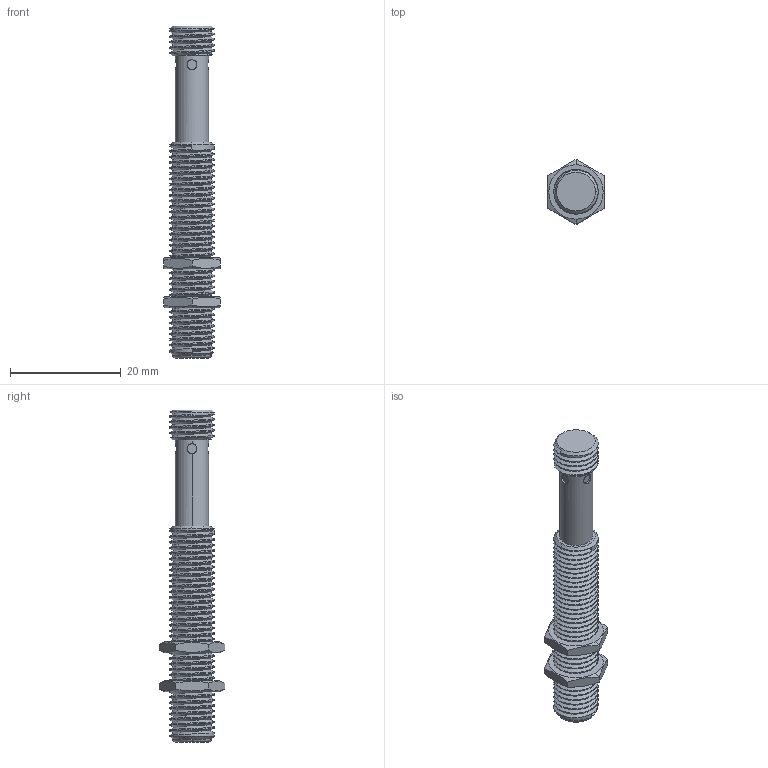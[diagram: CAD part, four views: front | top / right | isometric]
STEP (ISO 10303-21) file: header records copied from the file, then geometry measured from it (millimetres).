
FILE_DESCRIPTION((''),'2;1');
FILE_NAME('M8_DS860_ASM','2019-07-16T',('Administrator'),(''),'PRO/ENGINEER BY PARAMETRIC TECHNOLOGY CORPORATION, 2012130','PRO/ENGINEER BY PARAMETRIC TECHNOLOGY CORPORATION, 2012130','');
FILE_SCHEMA(('AUTOMOTIVE_DESIGN { 1 0 10303 214 1 1 1 1 }'));
Length unit declared in the file: millimetre
Products named in the file (3): M8_DS860; M8_LM; M8_DS860_ASM
Assembly tree (3 placements, depth 2):
  M8_DS860_ASM
    M8_DS860
    M8_LM  x2
Bounding box: 10.22 x 11.8 x 60 mm (x, y, z)
Volume: 2553.2 mm3; surface area: 2669.4 mm2
Topology: 3 solids, 3 shells, 178 faces, 474 edges, 306 vertices
Faces by surface type: cylinder 101, plane 30, bspline 30, cone 15, torus 2
Entity records: 12865 total; most frequent: CARTESIAN_POINT 9193, ORIENTED_EDGE 848, DIRECTION 501, EDGE_CURVE 424, VERTEX_POINT 274, B_SPLINE_CURVE_WITH_KNOTS 235, AXIS2_PLACEMENT_3D 175, EDGE_LOOP 164
